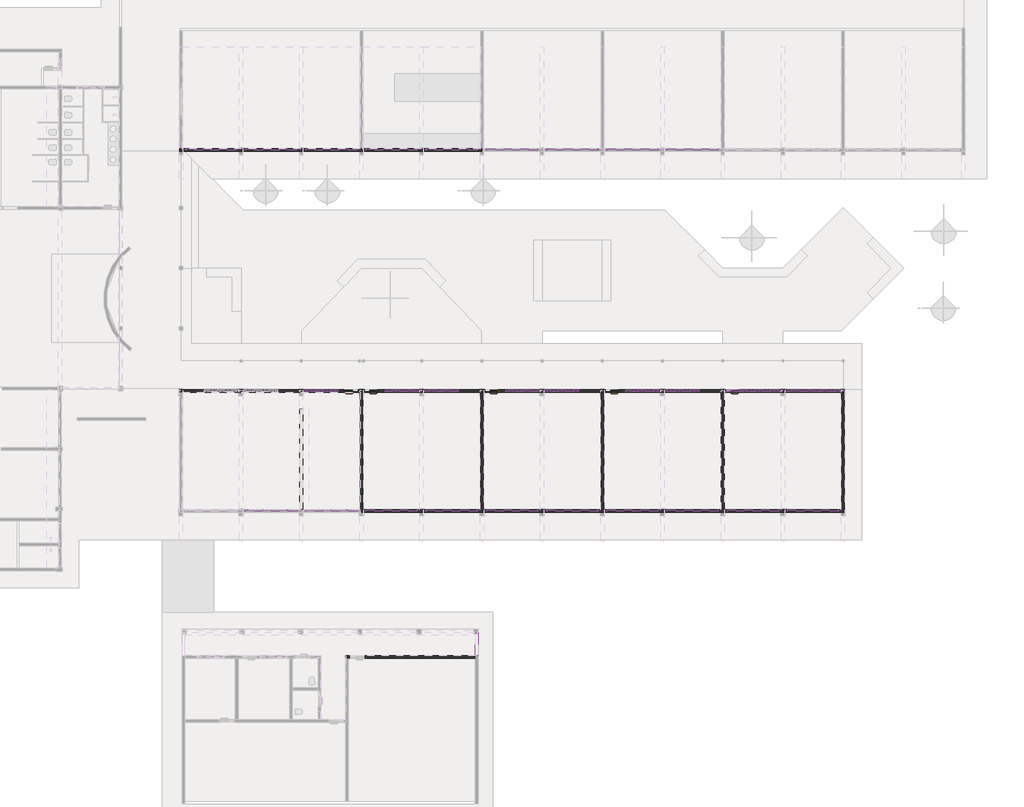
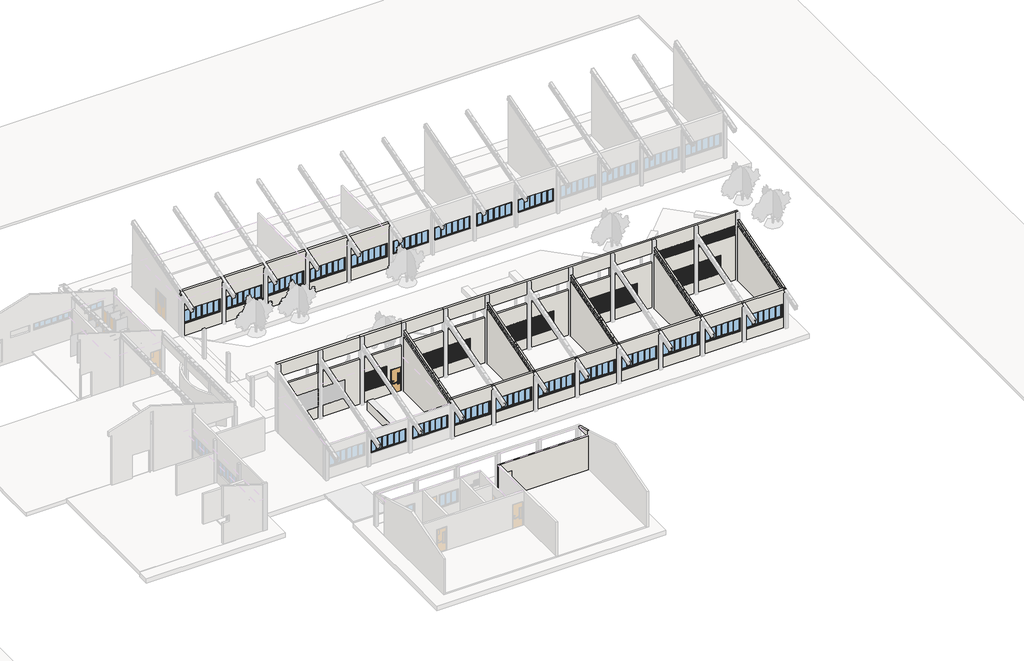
# One storey, part 3 of 12: 30 windows, 11 walls, 5 doors.
"""IFC4 building model written with IfcOpenShell, lengths in millimetres."""

from ifc_helpers import new_model, si_unit, frame, origin, place, context, project, spatial, polyline, outline, extrude, faceted_brep, transform, mapped, element, save
from components import door_2b58ae42, door_7c62873f, window_f572775f, window_a88563cc, window_1a4b773a, window_60306791, window_6c828501, window_02d14e1e, window_300_x_110_bd0b738a

model = new_model("IFC4")

# Units and contexts
model_context = context("Model", 3, world=origin())
ifc_project = project(units=[si_unit("LENGTHUNIT", "METRE", prefix="MILLI")], contexts=[model_context])

# Site, building, storey
site = spatial("IfcSite", under=ifc_project)
building = spatial("IfcBuilding", under=site)
storey = spatial("IfcBuildingStorey", under=building, Name="Nível 1", Elevation=0.0)

# Doors
placement = place(None, origin())
door_shape = door_2b58ae42(model_context)
element("IfcDoor", 1, ObjectType="Porta sala de aula e laboratorio : Porta sala de aula e laboratorio", at=placement, inside=storey, context=model_context, shape_type="MappedRepresentation", body=[
    mapped(door_shape, transform((34866.5302368, 15697.0058221, 300.0), x_axis=(1.0, 0.0, 0.0), y_axis=(0.0, 1.0, 0.0), z_axis=(0.0, 0.0, 1.0))),
])
element("IfcDoor", 2, ObjectType="Porta sala de aula e laboratorio : Porta sala de aula e laboratorio", at=placement, inside=storey, context=model_context, shape_type="MappedRepresentation", body=[
    mapped(door_shape, transform((27866.5302368, 15697.0058221, 300.0), x_axis=(1.0, 0.0, 0.0), y_axis=(0.0, 1.0, 0.0), z_axis=(0.0, 0.0, 1.0))),
])
element("IfcDoor", 3, ObjectType="Porta sala de aula e laboratorio : Porta sala de aula e laboratorio", at=placement, inside=storey, context=model_context, shape_type="MappedRepresentation", body=[
    mapped(door_shape, transform((20866.5302368, 15697.0058221, 300.0), x_axis=(1.0, 0.0, 0.0), y_axis=(0.0, 1.0, 0.0), z_axis=(0.0, 0.0, 1.0))),
])
element("IfcDoor", 4, ObjectType="Porta sala de aula e laboratorio : Porta sala de aula e laboratorio", at=placement, inside=storey, context=model_context, shape_type="MappedRepresentation", body=[
    mapped(door_shape, transform((13856.528714, 15697.0058221, 300.0), x_axis=(1.0, 0.0, 0.0), y_axis=(0.0, 1.0, 0.0), z_axis=(0.0, 0.0, 1.0))),
])
door_2_shape = door_7c62873f(model_context)
element("IfcDoor", 5, ObjectType="Porta sala de aula e laboratorio : Porta sala de aula e laboratorio", at=placement, inside=storey, context=model_context, shape_type="MappedRepresentation", body=[
    mapped(door_2_shape, transform((12711.528714, 15697.0058221, 300.0), x_axis=(-1.0, 0.0, 0.0), y_axis=(0.0, -1.0, 0.0), z_axis=(0.0, 0.0, 1.0))),
])

# Walls
element("IfcWall", 6, ObjectType="15cm - Parede Genérica", at=placement, inside=storey, context=model_context, shape_type="Brep", body=[
    faceted_brep([(20301.5285525, 29781.1862478, 4235.7451204), (20301.5285525, 29781.1862478, 117.8550021), (2726.5285525, 29781.1862478, 117.8550021), (2726.5285525, 29781.1862478, 306.2937063), (2726.5285525, 29781.1862478, 4235.7451204), (2876.5285525, 29781.1862478, 4235.7451204), (20051.5233349, 29781.1862478, 1265.0), (20051.5233349, 29781.1862478, 2435.0), (17051.5233349, 29781.1862478, 2435.0), (17051.5233349, 29781.1862478, 1265.0), (16551.5233349, 29781.1862478, 1265.0), (16551.5233349, 29781.1862478, 2435.0), (13551.5233349, 29781.1862478, 2435.0), (13551.5233349, 29781.1862478, 1265.0), (13051.5233349, 29781.1862478, 1265.0), (13051.5233349, 29781.1862478, 2435.0), (10051.5233349, 29781.1862478, 2435.0), (10051.5233349, 29781.1862478, 1265.0), (9551.5233349, 29781.1862478, 1265.0), (9551.5233349, 29781.1862478, 2435.0), (6551.5233349, 29781.1862478, 2435.0), (6551.5233349, 29781.1862478, 1265.0), (6051.5233349, 29781.1862478, 1265.0), (6051.5233349, 29781.1862478, 2435.0), (3051.5233349, 29781.1862478, 2435.0), (3051.5233349, 29781.1862478, 1265.0), (20301.5285525, 29631.1862478, 117.8550021), (20301.5285525, 29631.1862478, 4190.7451204), (2726.5285525, 29631.1862478, 4190.7451204), (2726.5285525, 29631.1862478, 117.8550021), (20051.5233349, 29631.1862478, 1265.0), (17051.5233349, 29631.1862478, 1265.0), (17051.5233349, 29631.1862478, 2435.0), (20051.5233349, 29631.1862478, 2435.0), (16551.5233349, 29631.1862478, 1265.0), (13551.5233349, 29631.1862478, 1265.0), (13551.5233349, 29631.1862478, 2435.0), (16551.5233349, 29631.1862478, 2435.0), (13051.5233349, 29631.1862478, 1265.0), (10051.5233349, 29631.1862478, 1265.0), (10051.5233349, 29631.1862478, 2435.0), (13051.5233349, 29631.1862478, 2435.0), (9551.5233349, 29631.1862478, 1265.0), (6551.5233349, 29631.1862478, 1265.0), (6551.5233349, 29631.1862478, 2435.0), (9551.5233349, 29631.1862478, 2435.0), (6051.5233349, 29631.1862478, 1265.0), (3051.5233349, 29631.1862478, 1265.0), (3051.5233349, 29631.1862478, 2435.0), (6051.5233349, 29631.1862478, 2435.0)], [[[0, 1, 2, 3, 4, 5], [6, 7, 8, 9], [10, 11, 12, 13], [14, 15, 16, 17], [18, 19, 20, 21], [22, 23, 24, 25]], [[26, 27, 28, 29], [30, 31, 32, 33], [34, 35, 36, 37], [38, 39, 40, 41], [42, 43, 44, 45], [46, 47, 48, 49]], [[2, 1, 26, 29]], [[7, 6, 30, 33]], [[8, 7, 33, 32]], [[9, 8, 32, 31]], [[6, 9, 31, 30]], [[11, 10, 34, 37]], [[12, 11, 37, 36]], [[13, 12, 36, 35]], [[10, 13, 35, 34]], [[15, 14, 38, 41]], [[16, 15, 41, 40]], [[17, 16, 40, 39]], [[14, 17, 39, 38]], [[19, 18, 42, 45]], [[20, 19, 45, 44]], [[21, 20, 44, 43]], [[18, 21, 43, 42]], [[23, 22, 46, 49]], [[24, 23, 49, 48]], [[25, 24, 48, 47]], [[22, 25, 47, 46]], [[4, 3, 2, 29, 28]], [[0, 27, 26, 1]], [[0, 5, 4, 28, 27]]]),
])
element("IfcWall", 7, ObjectType="15cm - Parede Genérica", at=placement, inside=storey, context=model_context, shape_type="Brep", body=[
    faceted_brep([(41376.5302368, 15622.0058221, 6300.0), (2726.528714, 15622.0058221, 6300.0), (2726.528714, 15622.0058221, 5300.0), (2726.528714, 15622.0058221, 300.0), (2876.528714, 15622.0058221, 300.0), (12281.528714, 15622.0058221, 300.0), (12281.528714, 15622.0058221, 2430.0), (13141.528714, 15622.0058221, 2430.0), (13141.528714, 15622.0058221, 300.0), (13226.528714, 15622.0058221, 300.0), (13376.528714, 15622.0058221, 300.0), (13426.528714, 15622.0058221, 300.0), (13426.528714, 15622.0058221, 2430.0), (14286.528714, 15622.0058221, 2430.0), (14286.528714, 15622.0058221, 300.0), (20226.6119019, 15622.0058221, 300.0), (20376.6119019, 15622.0058221, 300.0), (20436.5302368, 15622.0058221, 300.0), (20436.5302368, 15622.0058221, 2430.0), (21296.5302368, 15622.0058221, 2430.0), (21296.5302368, 15622.0058221, 300.0), (27226.5302368, 15622.0058221, 300.0), (27376.5302368, 15622.0058221, 300.0), (27436.5302368, 15622.0058221, 300.0), (27436.5302368, 15622.0058221, 2430.0), (28296.5302368, 15622.0058221, 2430.0), (28296.5302368, 15622.0058221, 300.0), (34226.5302368, 15622.0058221, 300.0), (34376.5302368, 15622.0058221, 300.0), (34436.5302368, 15622.0058221, 300.0), (34436.5302368, 15622.0058221, 2430.0), (35296.5302368, 15622.0058221, 2430.0), (35296.5302368, 15622.0058221, 300.0), (41226.5302368, 15622.0058221, 300.0), (41376.5302368, 15622.0058221, 300.0), (41376.5302368, 15622.0058221, 5300.0), (37926.5302368, 15622.0058221, 1300.0), (37926.5302368, 15622.0058221, 2900.0), (39926.5302368, 15622.0058221, 2900.0), (39926.5302368, 15622.0058221, 1300.0), (37676.5302368, 15622.0058221, 2900.0), (37676.5302368, 15622.0058221, 1300.0), (35676.5302368, 15622.0058221, 1300.0), (35676.5302368, 15622.0058221, 2900.0), (30926.5302368, 15622.0058221, 1300.0), (30926.5302368, 15622.0058221, 2900.0), (32926.5302368, 15622.0058221, 2900.0), (32926.5302368, 15622.0058221, 1300.0), (30676.5302368, 15622.0058221, 2900.0), (30676.5302368, 15622.0058221, 1300.0), (28676.5302368, 15622.0058221, 1300.0), (28676.5302368, 15622.0058221, 2900.0), (23926.5302368, 15622.0058221, 1300.0), (23926.5302368, 15622.0058221, 2900.0), (25926.5302368, 15622.0058221, 2900.0), (25926.5302368, 15622.0058221, 1300.0), (21676.5302368, 15622.0058221, 1300.0), (21676.5302368, 15622.0058221, 2900.0), (23676.5302368, 15622.0058221, 2900.0), (23676.5302368, 15622.0058221, 1300.0), (16926.5302368, 15622.0058221, 1300.0), (16926.5302368, 15622.0058221, 2900.0), (18926.5302368, 15622.0058221, 2900.0), (18926.5302368, 15622.0058221, 1300.0), (14676.5294754, 15622.0058221, 1300.0), (14676.5294754, 15622.0058221, 2900.0), (16676.5294754, 15622.0058221, 2900.0), (16676.5294754, 15622.0058221, 1300.0), (37676.5302368, 15622.0058221, 5100.0), (37676.5302368, 15622.0058221, 4300.0), (34376.5302368, 15622.0058221, 4300.0), (34376.5302368, 15622.0058221, 5100.0), (30676.5302368, 15622.0058221, 5100.0), (30676.5302368, 15622.0058221, 4300.0), (27376.5302368, 15622.0058221, 4300.0), (27376.5302368, 15622.0058221, 5100.0), (34226.5302368, 15622.0058221, 5100.0), (34226.5302368, 15622.0058221, 4300.0), (30926.5302368, 15622.0058221, 4300.0), (30926.5302368, 15622.0058221, 5100.0), (23676.5302368, 15622.0058221, 5100.0), (23676.5302368, 15622.0058221, 4300.0), (20376.5302368, 15622.0058221, 4300.0), (20376.5302368, 15622.0058221, 5100.0), (27226.5302368, 15622.0058221, 5100.0), (27226.5302368, 15622.0058221, 4300.0), (23926.5302368, 15622.0058221, 4300.0), (23926.5302368, 15622.0058221, 5100.0), (16676.5302368, 15622.0058221, 5100.0), (16676.5302368, 15622.0058221, 4300.0), (13376.5302368, 15622.0058221, 4300.0), (13376.5302368, 15622.0058221, 5100.0), (20226.5302368, 15622.0058221, 5100.0), (20226.5302368, 15622.0058221, 4300.0), (16926.5302368, 15622.0058221, 4300.0), (16926.5302368, 15622.0058221, 5100.0), (11931.5285525, 15622.0058221, 1300.0), (9931.5285525, 15622.0058221, 1300.0), (9931.5285525, 15622.0058221, 2900.0), (11931.5285525, 15622.0058221, 2900.0), (8426.5285525, 15622.0058221, 1300.0), (6426.5285525, 15622.0058221, 1300.0), (6426.5285525, 15622.0058221, 2900.0), (8426.5285525, 15622.0058221, 2900.0), (6176.5285525, 15622.0058221, 1300.0), (4176.5285525, 15622.0058221, 1300.0), (4176.5285525, 15622.0058221, 2900.0), (6176.5285525, 15622.0058221, 2900.0), (9726.5285525, 15622.0058221, 4300.0), (6426.5285525, 15622.0058221, 4300.0), (6426.5285525, 15622.0058221, 5100.0), (9726.5285525, 15622.0058221, 5100.0), (13226.528714, 15622.0058221, 4300.0), (9926.528714, 15622.0058221, 4300.0), (9926.528714, 15622.0058221, 5100.0), (13226.528714, 15622.0058221, 5100.0), (6176.5285525, 15622.0058221, 5100.0), (6176.5285525, 15622.0058221, 4300.0), (2876.5285525, 15622.0058221, 4300.0), (2876.5285525, 15622.0058221, 5100.0), (37926.5302368, 15622.0058221, 5100.0), (41226.5302368, 15622.0058221, 5100.0), (41226.5302368, 15622.0058221, 4300.0), (37926.5302368, 15622.0058221, 4300.0), (2726.528714, 15772.0058221, 6300.0), (41376.5302368, 15772.0058221, 6300.0), (41376.5302368, 15772.0058221, 300.0), (35296.5302368, 15772.0058221, 300.0), (35296.5302368, 15772.0058221, 2430.0), (34436.5302368, 15772.0058221, 2430.0), (34436.5302368, 15772.0058221, 300.0), (28296.5302368, 15772.0058221, 300.0), (28296.5302368, 15772.0058221, 2430.0), (27436.5302368, 15772.0058221, 2430.0), (27436.5302368, 15772.0058221, 300.0), (21296.5302368, 15772.0058221, 300.0), (21296.5302368, 15772.0058221, 2430.0), (20436.5302368, 15772.0058221, 2430.0), (20436.5302368, 15772.0058221, 300.0), (14286.528714, 15772.0058221, 300.0), (14286.528714, 15772.0058221, 2430.0), (13426.528714, 15772.0058221, 2430.0), (13426.528714, 15772.0058221, 300.0), (13141.528714, 15772.0058221, 300.0), (13141.528714, 15772.0058221, 2430.0), (12281.528714, 15772.0058221, 2430.0), (12281.528714, 15772.0058221, 300.0), (2726.528714, 15772.0058221, 300.0), (37926.5302368, 15772.0058221, 2900.0), (37926.5302368, 15772.0058221, 1300.0), (39926.5302368, 15772.0058221, 1300.0), (39926.5302368, 15772.0058221, 2900.0), (37676.5302368, 15772.0058221, 1300.0), (37676.5302368, 15772.0058221, 2900.0), (35676.5302368, 15772.0058221, 2900.0), (35676.5302368, 15772.0058221, 1300.0), (30926.5302368, 15772.0058221, 2900.0), (30926.5302368, 15772.0058221, 1300.0), (32926.5302368, 15772.0058221, 1300.0), (32926.5302368, 15772.0058221, 2900.0), (30676.5302368, 15772.0058221, 1300.0), (30676.5302368, 15772.0058221, 2900.0), (28676.5302368, 15772.0058221, 2900.0), (28676.5302368, 15772.0058221, 1300.0), (23926.5302368, 15772.0058221, 2900.0), (23926.5302368, 15772.0058221, 1300.0), (25926.5302368, 15772.0058221, 1300.0), (25926.5302368, 15772.0058221, 2900.0), (21676.5302368, 15772.0058221, 2900.0), (21676.5302368, 15772.0058221, 1300.0), (23676.5302368, 15772.0058221, 1300.0), (23676.5302368, 15772.0058221, 2900.0), (16926.5302368, 15772.0058221, 2900.0), (16926.5302368, 15772.0058221, 1300.0), (18926.5302368, 15772.0058221, 1300.0), (18926.5302368, 15772.0058221, 2900.0), (14676.5294754, 15772.0058221, 2900.0), (14676.5294754, 15772.0058221, 1300.0), (16676.5294754, 15772.0058221, 1300.0), (16676.5294754, 15772.0058221, 2900.0), (37676.5302368, 15772.0058221, 4300.0), (37676.5302368, 15772.0058221, 5100.0), (34376.5302368, 15772.0058221, 5100.0), (34376.5302368, 15772.0058221, 4300.0), (30676.5302368, 15772.0058221, 4300.0), (30676.5302368, 15772.0058221, 5100.0), (27376.5302368, 15772.0058221, 5100.0), (27376.5302368, 15772.0058221, 4300.0), (34226.5302368, 15772.0058221, 4300.0), (34226.5302368, 15772.0058221, 5100.0), (30926.5302368, 15772.0058221, 5100.0), (30926.5302368, 15772.0058221, 4300.0), (23676.5302368, 15772.0058221, 4300.0), (23676.5302368, 15772.0058221, 5100.0), (20376.5302368, 15772.0058221, 5100.0), (20376.5302368, 15772.0058221, 4300.0), (27226.5302368, 15772.0058221, 4300.0), (27226.5302368, 15772.0058221, 5100.0), (23926.5302368, 15772.0058221, 5100.0), (23926.5302368, 15772.0058221, 4300.0), (16676.5302368, 15772.0058221, 4300.0), (16676.5302368, 15772.0058221, 5100.0), (13376.5302368, 15772.0058221, 5100.0), (13376.5302368, 15772.0058221, 4300.0), (20226.5302368, 15772.0058221, 4300.0), (20226.5302368, 15772.0058221, 5100.0), (16926.5302368, 15772.0058221, 5100.0), (16926.5302368, 15772.0058221, 4300.0), (9931.5285525, 15772.0058221, 1300.0), (11931.5285525, 15772.0058221, 1300.0), (11931.5285525, 15772.0058221, 2900.0), (9931.5285525, 15772.0058221, 2900.0), (6426.5285525, 15772.0058221, 1300.0), (8426.5285525, 15772.0058221, 1300.0), (8426.5285525, 15772.0058221, 2900.0), (6426.5285525, 15772.0058221, 2900.0), (4176.5285525, 15772.0058221, 1300.0), (6176.5285525, 15772.0058221, 1300.0), (6176.5285525, 15772.0058221, 2900.0), (4176.5285525, 15772.0058221, 2900.0), (6426.5285525, 15772.0058221, 4300.0), (9726.5285525, 15772.0058221, 4300.0), (9726.5285525, 15772.0058221, 5100.0), (6426.5285525, 15772.0058221, 5100.0), (13226.528714, 15772.0058221, 4300.0), (13226.528714, 15772.0058221, 5100.0), (9926.528714, 15772.0058221, 5100.0), (9926.528714, 15772.0058221, 4300.0), (6176.5285525, 15772.0058221, 4300.0), (6176.5285525, 15772.0058221, 5100.0), (2876.5285525, 15772.0058221, 5100.0), (2876.5285525, 15772.0058221, 4300.0), (41226.5302368, 15772.0058221, 5100.0), (37926.5302368, 15772.0058221, 5100.0), (37926.5302368, 15772.0058221, 4300.0), (41226.5302368, 15772.0058221, 4300.0)], [[[0, 1, 2, 3, 4, 5, 6, 7, 8, 9, 10, 11, 12, 13, 14, 15, 16, 17, 18, 19, 20, 21, 22, 23, 24, 25, 26, 27, 28, 29, 30, 31, 32, 33, 34, 35], [36, 37, 38, 39], [40, 41, 42, 43], [44, 45, 46, 47], [48, 49, 50, 51], [52, 53, 54, 55], [56, 57, 58, 59], [60, 61, 62, 63], [64, 65, 66, 67], [68, 69, 70, 71], [72, 73, 74, 75], [76, 77, 78, 79], [80, 81, 82, 83], [84, 85, 86, 87], [88, 89, 90, 91], [92, 93, 94, 95], [96, 97, 98, 99], [100, 101, 102, 103], [104, 105, 106, 107], [108, 109, 110, 111], [112, 113, 114, 115], [116, 117, 118, 119], [120, 121, 122, 123]], [[124, 125, 126, 127, 128, 129, 130, 131, 132, 133, 134, 135, 136, 137, 138, 139, 140, 141, 142, 143, 144, 145, 146, 147], [148, 149, 150, 151], [152, 153, 154, 155], [156, 157, 158, 159], [160, 161, 162, 163], [164, 165, 166, 167], [168, 169, 170, 171], [172, 173, 174, 175], [176, 177, 178, 179], [180, 181, 182, 183], [184, 185, 186, 187], [188, 189, 190, 191], [192, 193, 194, 195], [196, 197, 198, 199], [200, 201, 202, 203], [204, 205, 206, 207], [208, 209, 210, 211], [212, 213, 214, 215], [216, 217, 218, 219], [220, 221, 222, 223], [224, 225, 226, 227], [228, 229, 230, 231], [232, 233, 234, 235]], [[130, 29, 28, 27, 26, 131]], [[134, 23, 22, 21, 20, 135]], [[138, 17, 16, 15, 14, 139]], [[142, 11, 10, 9, 8, 143]], [[34, 33, 32, 127, 126]], [[5, 4, 3, 147, 146]], [[1, 0, 125, 124]], [[31, 128, 127, 32]], [[128, 31, 30, 129]], [[129, 30, 29, 130]], [[25, 132, 131, 26]], [[132, 25, 24, 133]], [[133, 24, 23, 134]], [[19, 136, 135, 20]], [[136, 19, 18, 137]], [[137, 18, 17, 138]], [[13, 140, 139, 14]], [[140, 13, 12, 141]], [[141, 12, 11, 142]], [[37, 36, 149, 148]], [[38, 37, 148, 151]], [[39, 38, 151, 150]], [[36, 39, 150, 149]], [[153, 152, 41, 40]], [[154, 153, 40, 43]], [[155, 154, 43, 42]], [[152, 155, 42, 41]], [[45, 44, 157, 156]], [[46, 45, 156, 159]], [[47, 46, 159, 158]], [[44, 47, 158, 157]], [[161, 160, 49, 48]], [[162, 161, 48, 51]], [[163, 162, 51, 50]], [[160, 163, 50, 49]], [[53, 52, 165, 164]], [[54, 53, 164, 167]], [[55, 54, 167, 166]], [[52, 55, 166, 165]], [[57, 56, 169, 168]], [[58, 57, 168, 171]], [[59, 58, 171, 170]], [[56, 59, 170, 169]], [[61, 60, 173, 172]], [[62, 61, 172, 175]], [[63, 62, 175, 174]], [[60, 63, 174, 173]], [[65, 64, 177, 176]], [[66, 65, 176, 179]], [[67, 66, 179, 178]], [[64, 67, 178, 177]], [[181, 180, 69, 68]], [[182, 181, 68, 71]], [[183, 182, 71, 70]], [[180, 183, 70, 69]], [[185, 184, 73, 72]], [[186, 185, 72, 75]], [[187, 186, 75, 74]], [[184, 187, 74, 73]], [[189, 188, 77, 76]], [[190, 189, 76, 79]], [[191, 190, 79, 78]], [[188, 191, 78, 77]], [[193, 192, 81, 80]], [[194, 193, 80, 83]], [[195, 194, 83, 82]], [[192, 195, 82, 81]], [[197, 196, 85, 84]], [[198, 197, 84, 87]], [[199, 198, 87, 86]], [[196, 199, 86, 85]], [[201, 200, 89, 88]], [[202, 201, 88, 91]], [[203, 202, 91, 90]], [[200, 203, 90, 89]], [[205, 204, 93, 92]], [[206, 205, 92, 95]], [[207, 206, 95, 94]], [[204, 207, 94, 93]], [[97, 96, 209, 208]], [[96, 99, 210, 209]], [[99, 98, 211, 210]], [[98, 97, 208, 211]], [[101, 100, 213, 212]], [[100, 103, 214, 213]], [[103, 102, 215, 214]], [[102, 101, 212, 215]], [[105, 104, 217, 216]], [[104, 107, 218, 217]], [[107, 106, 219, 218]], [[106, 105, 216, 219]], [[221, 220, 109, 108]], [[220, 223, 110, 109]], [[223, 222, 111, 110]], [[222, 221, 108, 111]], [[224, 227, 113, 112]], [[227, 226, 114, 113]], [[226, 225, 115, 114]], [[225, 224, 112, 115]], [[228, 117, 116, 229]], [[229, 116, 119, 230]], [[117, 228, 231, 118]], [[145, 6, 5, 146]], [[6, 145, 144, 7]], [[7, 144, 143, 8]], [[118, 231, 230, 119]], [[3, 2, 1, 124, 147]], [[120, 233, 232, 121]], [[233, 120, 123, 234]], [[234, 123, 122, 235]], [[121, 232, 235, 122]], [[0, 35, 34, 126, 125]]]),
])
element("IfcWall", 8, ObjectType="15cm - Parede Genérica", at=placement, inside=storey, context=model_context, shape_type="Brep", body=[
    faceted_brep([(41376.5302368, 8781.1862478, 300.0), (41226.5302368, 8781.1862478, 300.0), (34376.5302368, 8781.1862478, 300.0), (34226.5302368, 8781.1862478, 300.0), (27376.5302368, 8781.1862478, 300.0), (27226.5302368, 8781.1862478, 300.0), (20376.6119019, 8781.1862478, 300.0), (20226.6119019, 8781.1862478, 300.0), (13376.528714, 8781.1862478, 300.0), (13301.528714, 8781.1862478, 300.0), (13301.528714, 8781.1862478, 3250.0), (13226.528714, 8781.1862478, 3250.0), (13226.528714, 8781.1862478, 3721.7632138), (13376.528714, 8781.1862478, 3721.7632138), (20226.6119019, 8781.1862478, 3721.7632138), (20376.6119019, 8781.1862478, 3721.7632138), (27226.5302368, 8781.1862478, 3721.7632138), (27376.5302368, 8781.1862478, 3721.7632138), (34226.5302368, 8781.1862478, 3721.7632138), (34376.5302368, 8781.1862478, 3721.7632138), (41226.5302368, 8781.1862478, 3721.7632138), (41376.5302368, 8781.1862478, 3721.7632138), (41051.5227001, 8781.1862478, 1265.0), (41051.5227001, 8781.1862478, 2435.0), (38051.5227001, 8781.1862478, 2435.0), (38051.5227001, 8781.1862478, 1265.0), (37551.5227001, 8781.1862478, 1265.0), (37551.5227001, 8781.1862478, 2435.0), (34551.5227001, 8781.1862478, 2435.0), (34551.5227001, 8781.1862478, 1265.0), (34051.5227001, 8781.1862478, 1265.0), (34051.5227001, 8781.1862478, 2435.0), (31051.5227001, 8781.1862478, 2435.0), (31051.5227001, 8781.1862478, 1265.0), (30551.5227001, 8781.1862478, 1265.0), (30551.5227001, 8781.1862478, 2435.0), (27551.5227001, 8781.1862478, 2435.0), (27551.5227001, 8781.1862478, 1265.0), (27051.5227001, 8781.1862478, 1265.0), (27051.5227001, 8781.1862478, 2435.0), (24051.5227001, 8781.1862478, 2435.0), (24051.5227001, 8781.1862478, 1265.0), (23551.5227001, 8781.1862478, 1265.0), (23551.5227001, 8781.1862478, 2435.0), (20551.5227001, 8781.1862478, 2435.0), (20551.5227001, 8781.1862478, 1265.0), (20051.5227001, 8781.1862478, 1265.0), (20051.5227001, 8781.1862478, 2435.0), (17051.5227001, 8781.1862478, 2435.0), (17051.5227001, 8781.1862478, 1265.0), (16551.5227001, 8781.1862478, 1265.0), (16551.5227001, 8781.1862478, 2435.0), (13551.5227001, 8781.1862478, 2435.0), (13551.5227001, 8781.1862478, 1265.0), (41376.5302368, 8631.1862478, 300.0), (41376.5302368, 8631.1862478, 3676.7632138), (13226.528714, 8631.1862478, 3676.7632138), (13226.528714, 8631.1862478, 3250.0), (13301.528714, 8631.1862478, 3250.0), (13301.528714, 8631.1862478, 300.0), (41051.5227001, 8631.1862478, 1265.0), (38051.5227001, 8631.1862478, 1265.0), (38051.5227001, 8631.1862478, 2435.0), (41051.5227001, 8631.1862478, 2435.0), (37551.5227001, 8631.1862478, 1265.0), (34551.5227001, 8631.1862478, 1265.0), (34551.5227001, 8631.1862478, 2435.0), (37551.5227001, 8631.1862478, 2435.0), (34051.5227001, 8631.1862478, 1265.0), (31051.5227001, 8631.1862478, 1265.0), (31051.5227001, 8631.1862478, 2435.0), (34051.5227001, 8631.1862478, 2435.0), (30551.5227001, 8631.1862478, 1265.0), (27551.5227001, 8631.1862478, 1265.0), (27551.5227001, 8631.1862478, 2435.0), (30551.5227001, 8631.1862478, 2435.0), (27051.5227001, 8631.1862478, 1265.0), (24051.5227001, 8631.1862478, 1265.0), (24051.5227001, 8631.1862478, 2435.0), (27051.5227001, 8631.1862478, 2435.0), (23551.5227001, 8631.1862478, 1265.0), (20551.5227001, 8631.1862478, 1265.0), (20551.5227001, 8631.1862478, 2435.0), (23551.5227001, 8631.1862478, 2435.0), (20051.5227001, 8631.1862478, 1265.0), (17051.5227001, 8631.1862478, 1265.0), (17051.5227001, 8631.1862478, 2435.0), (20051.5227001, 8631.1862478, 2435.0), (16551.5227001, 8631.1862478, 1265.0), (13551.5227001, 8631.1862478, 1265.0), (13551.5227001, 8631.1862478, 2435.0), (16551.5227001, 8631.1862478, 2435.0)], [[[0, 1, 2, 3, 4, 5, 6, 7, 8, 9, 10, 11, 12, 13, 14, 15, 16, 17, 18, 19, 20, 21], [22, 23, 24, 25], [26, 27, 28, 29], [30, 31, 32, 33], [34, 35, 36, 37], [38, 39, 40, 41], [42, 43, 44, 45], [46, 47, 48, 49], [50, 51, 52, 53]], [[54, 55, 56, 57, 58, 59], [60, 61, 62, 63], [64, 65, 66, 67], [68, 69, 70, 71], [72, 73, 74, 75], [76, 77, 78, 79], [80, 81, 82, 83], [84, 85, 86, 87], [88, 89, 90, 91]], [[9, 8, 7, 6, 5, 4, 3, 2, 1, 0, 54, 59]], [[10, 9, 59, 58]], [[57, 11, 10, 58]], [[12, 11, 57, 56]], [[23, 22, 60, 63]], [[24, 23, 63, 62]], [[25, 24, 62, 61]], [[22, 25, 61, 60]], [[27, 26, 64, 67]], [[28, 27, 67, 66]], [[29, 28, 66, 65]], [[26, 29, 65, 64]], [[31, 30, 68, 71]], [[32, 31, 71, 70]], [[33, 32, 70, 69]], [[30, 33, 69, 68]], [[35, 34, 72, 75]], [[36, 35, 75, 74]], [[37, 36, 74, 73]], [[34, 37, 73, 72]], [[39, 38, 76, 79]], [[40, 39, 79, 78]], [[41, 40, 78, 77]], [[38, 41, 77, 76]], [[43, 42, 80, 83]], [[44, 43, 83, 82]], [[45, 44, 82, 81]], [[42, 45, 81, 80]], [[47, 46, 84, 87]], [[48, 47, 87, 86]], [[49, 48, 86, 85]], [[46, 49, 85, 84]], [[51, 50, 88, 91]], [[52, 51, 91, 90]], [[53, 52, 90, 89]], [[50, 53, 89, 88]], [[0, 21, 55, 54]], [[21, 20, 19, 18, 17, 16, 15, 14, 13, 12, 56, 55]]]),
])
element("IfcWall", 9, ObjectType="15cm - Parede Genérica", at=placement, inside=storey, context=model_context, shape_type="Brep", body=[
    faceted_brep([(19926.5285525, 151.3249037, 3300.0), (12526.5285525, 151.3249037, 3300.0), (12376.5285525, 151.3249037, 3300.0), (12376.5285525, 151.3249037, 300.0), (12526.5285525, 151.3249037, 300.0), (12626.5285525, 151.3249037, 300.0), (12626.5285525, 151.3249037, 2430.0), (13486.5285525, 151.3249037, 2430.0), (13486.5285525, 151.3249037, 300.0), (19926.5285525, 151.3249037, 300.0), (12376.5285525, 301.3249037, 3300.0), (19926.5285525, 301.3249037, 3300.0), (19926.5285525, 301.3249037, 300.0), (13486.5285525, 301.3249037, 300.0), (13486.5285525, 301.3249037, 2430.0), (12626.5285525, 301.3249037, 2430.0), (12626.5285525, 301.3249037, 300.0), (12376.5285525, 301.3249037, 300.0)], [[[0, 1, 2, 3, 4, 5, 6, 7, 8, 9]], [[10, 11, 12, 13, 14, 15, 16, 17]], [[3, 17, 16, 5, 4]], [[12, 9, 8, 13]], [[2, 1, 0, 11, 10]], [[3, 2, 10, 17]], [[7, 14, 13, 8]], [[14, 7, 6, 15]], [[15, 6, 5, 16]], [[9, 12, 11, 0]]]),
])
element("IfcWall", 10, ObjectType="15cm - Parede Genérica", at=placement, inside=storey, context=model_context, shape_type="SweptSolid", body=[
    extrude(outline(polyline([(9876.4731397, 14621.9993381), (9876.4731397, 8781.1862478), (9726.4731397, 8781.1862478), (9726.4731397, 14621.9993381), (9876.4731397, 14621.9993381)])), frame((0.0, 0.0, 300.0), z_axis=(0.0, 0.0, 1.0), x_axis=(1.0, 0.0, 0.0)), (0.0, 0.0, 1.0), 900.0),
])
element("IfcWall", 11, ObjectType="15cm - Parede Genérica", at=placement, inside=storey, context=model_context, shape_type="Brep", body=[
    faceted_brep([(41226.5302368, 15622.0058221, 300.0), (41226.5302368, 8781.1862478, 300.0), (41226.5302368, 8781.1862478, 3721.7632138), (41226.5302368, 15566.1284427, 5757.2458723), (41226.5302368, 15566.1284427, 5300.0), (41226.5302368, 15622.0058221, 5300.0), (41226.5302368, 15622.0058221, 5100.0), (41226.5302368, 15622.0058221, 4300.0), (41376.5302368, 15622.0058221, 300.0), (41376.5302368, 15622.0058221, 5300.0), (41376.5302368, 15566.1284427, 5300.0), (41376.5302368, 15566.1284427, 5757.2458723), (41376.5302368, 8781.1862478, 3721.7632138), (41376.5302368, 8781.1862478, 300.0)], [[[0, 1, 2, 3, 4, 5, 6, 7]], [[8, 9, 10, 11, 12, 13]], [[1, 0, 8, 13]], [[0, 7, 6, 5, 9, 8]], [[2, 1, 13, 12]], [[5, 4, 10, 9]], [[10, 4, 3, 11]], [[3, 2, 12, 11]]]),
])
element("IfcWall", 12, ObjectType="15cm - Parede Genérica", at=placement, inside=storey, context=model_context, shape_type="Brep", body=[
    faceted_brep([(34226.5302368, 15622.0058221, 300.0), (34226.5302368, 8781.1862478, 300.0), (34226.5302368, 8781.1862478, 3721.7632138), (34226.5302368, 15566.1284427, 5757.2458723), (34226.5302368, 15566.1284427, 5300.0), (34226.5302368, 15622.0058221, 5300.0), (34226.5302368, 15622.0058221, 5100.0), (34226.5302368, 15622.0058221, 4300.0), (34376.5302368, 15622.0058221, 300.0), (34376.5302368, 15622.0058221, 4300.0), (34376.5302368, 15622.0058221, 5100.0), (34376.5302368, 15622.0058221, 5300.0), (34376.5302368, 15566.1284427, 5300.0), (34376.5302368, 15566.1284427, 5757.2458723), (34376.5302368, 8781.1862478, 3721.7632138), (34376.5302368, 8781.1862478, 300.0)], [[[0, 1, 2, 3, 4, 5, 6, 7]], [[8, 9, 10, 11, 12, 13, 14, 15]], [[1, 0, 8, 15]], [[0, 7, 6, 5, 11, 10, 9, 8]], [[2, 1, 15, 14]], [[5, 4, 12, 11]], [[12, 4, 3, 13]], [[3, 2, 14, 13]]]),
])
element("IfcWall", 13, ObjectType="15cm - Parede Genérica", at=placement, inside=storey, context=model_context, shape_type="Brep", body=[
    faceted_brep([(27226.5302368, 15622.0058221, 300.0), (27226.5302368, 8781.1862478, 300.0), (27226.5302368, 8781.1862478, 3721.7632138), (27226.5302368, 15566.1284427, 5757.2458723), (27226.5302368, 15566.1284427, 5300.0), (27226.5302368, 15622.0058221, 5300.0), (27226.5302368, 15622.0058221, 5100.0), (27226.5302368, 15622.0058221, 4300.0), (27376.5302368, 15622.0058221, 300.0), (27376.5302368, 15622.0058221, 4300.0), (27376.5302368, 15622.0058221, 5100.0), (27376.5302368, 15622.0058221, 5300.0), (27376.5302368, 15566.1284427, 5300.0), (27376.5302368, 15566.1284427, 5757.2458723), (27376.5302368, 8781.1862478, 3721.7632138), (27376.5302368, 8781.1862478, 300.0)], [[[0, 1, 2, 3, 4, 5, 6, 7]], [[8, 9, 10, 11, 12, 13, 14, 15]], [[1, 0, 8, 15]], [[0, 7, 6, 5, 11, 10, 9, 8]], [[2, 1, 15, 14]], [[5, 4, 12, 11]], [[12, 4, 3, 13]], [[3, 2, 14, 13]]]),
])
element("IfcWall", 14, ObjectType="15cm - Parede Genérica", at=placement, inside=storey, context=model_context, shape_type="Brep", body=[
    faceted_brep([(20226.6119019, 15622.0058221, 300.0), (20226.6119019, 8781.1862478, 300.0), (20226.6119019, 8781.1862478, 3721.7632138), (20226.6119019, 15566.1284427, 5757.2458723), (20226.6119019, 15566.1284427, 5300.0), (20226.6119019, 15622.0058221, 5300.0), (20226.6119019, 15622.0058221, 5100.0), (20226.6119019, 15622.0058221, 4300.0), (20376.6119019, 15622.0058221, 300.0), (20376.6119019, 15622.0058221, 4300.0), (20376.6119019, 15622.0058221, 5100.0), (20376.6119019, 15622.0058221, 5300.0), (20376.6119019, 15566.1284427, 5300.0), (20376.6119019, 15566.1284427, 5757.2458723), (20376.6119019, 8781.1862478, 3721.7632138), (20376.6119019, 8781.1862478, 300.0)], [[[0, 1, 2, 3, 4, 5, 6, 7]], [[8, 9, 10, 11, 12, 13, 14, 15]], [[1, 0, 8, 15]], [[0, 7, 6, 5, 11, 10, 9, 8]], [[2, 1, 15, 14]], [[5, 4, 12, 11]], [[12, 4, 3, 13]], [[3, 2, 14, 13]]]),
])
element("IfcWall", 15, ObjectType="15cm - Parede Genérica", at=placement, inside=storey, context=model_context, shape_type="Brep", body=[
    faceted_brep([(13226.528714, 15622.0058221, 300.0), (13226.528714, 8781.1862478, 300.0), (13226.528714, 8781.1862478, 3250.0), (13226.528714, 8781.1862478, 3721.7632138), (13226.528714, 15566.1284427, 5757.2458723), (13226.528714, 15566.1284427, 5300.0), (13226.528714, 15622.0058221, 5300.0), (13226.528714, 15622.0058221, 5100.0), (13226.528714, 15622.0058221, 4300.0), (13376.528714, 15622.0058221, 300.0), (13376.528714, 15622.0058221, 4300.0), (13376.528714, 15622.0058221, 5100.0), (13376.528714, 15622.0058221, 5300.0), (13376.528714, 15566.1284427, 5300.0), (13376.528714, 15566.1284427, 5757.2458723), (13376.528714, 8781.1862478, 3721.7632138), (13376.528714, 8781.1862478, 300.0), (13301.528714, 8781.1862478, 300.0)], [[[0, 1, 2, 3, 4, 5, 6, 7, 8]], [[9, 10, 11, 12, 13, 14, 15, 16]], [[1, 0, 9, 16, 17]], [[1, 17, 16, 15, 3, 2]], [[0, 8, 7, 6, 12, 11, 10, 9]], [[6, 5, 13, 12]], [[13, 5, 4, 14]], [[4, 3, 15, 14]]]),
])
element("IfcWall", 16, ObjectType="15cm - Parede Genérica", at=placement, inside=storey, context=model_context, shape_type="SweptSolid", body=[
    extrude(outline(polyline([(1625.3088684, 3100.0), (301.3249037, 3100.0), (301.3249037, 3662.9553906), (1625.3088684, 3265.7602012), (1625.3088684, 3100.0)])), frame((19926.5285525, 0.0, 0.0), z_axis=(1.0, 0.0, 0.0), x_axis=(0.0, 1.0, 0.0)), (0.0, 0.0, 1.0), 150.0),
])

# Windows
window_shape = window_f572775f(model_context)
window_2_shape = window_a88563cc(model_context)
window_3_shape = window_1a4b773a(model_context)
element("IfcWindow", 17, ObjectType="Concrete_Cobog_Hollow_block_14694 : Cobogó 2,00 x 1,60 m", at=placement, inside=storey, context=model_context, shape_type="MappedRepresentation", body=[
    mapped(window_shape, transform((38926.5302368, 15697.0058221, 500.0), x_axis=(1.0, 0.0, 0.0), y_axis=(0.0, 1.0, 0.0), z_axis=(0.0, 0.0, 1.0))),
    mapped(window_2_shape, transform((38926.5302368, 15697.0058221, 500.0), x_axis=(1.0, 0.0, 0.0), y_axis=(0.0, 1.0, 0.0), z_axis=(0.0, 0.0, 1.0))),
    mapped(window_3_shape, transform((38926.5302368, 15697.0058221, 500.0), x_axis=(1.0, 0.0, 0.0), y_axis=(0.0, 1.0, 0.0), z_axis=(0.0, 0.0, 1.0))),
])
element("IfcWindow", 18, ObjectType="Concrete_Cobog_Hollow_block_14694 : Cobogó 2,00 x 1,60 m", at=placement, inside=storey, context=model_context, shape_type="MappedRepresentation", body=[
    mapped(window_shape, transform((36676.5302368, 15697.0058221, 500.0), x_axis=(-1.0, 0.0, 0.0), y_axis=(0.0, -1.0, 0.0), z_axis=(0.0, 0.0, 1.0))),
    mapped(window_2_shape, transform((36676.5302368, 15697.0058221, 500.0), x_axis=(-1.0, 0.0, 0.0), y_axis=(0.0, -1.0, 0.0), z_axis=(0.0, 0.0, 1.0))),
    mapped(window_3_shape, transform((36676.5302368, 15697.0058221, 500.0), x_axis=(-1.0, 0.0, 0.0), y_axis=(0.0, -1.0, 0.0), z_axis=(0.0, 0.0, 1.0))),
])
element("IfcWindow", 19, ObjectType="Concrete_Cobog_Hollow_block_14694 : Cobogó 2,00 x 1,60 m", at=placement, inside=storey, context=model_context, shape_type="MappedRepresentation", body=[
    mapped(window_shape, transform((31926.5302368, 15697.0058221, 500.0), x_axis=(1.0, 0.0, 0.0), y_axis=(0.0, 1.0, 0.0), z_axis=(0.0, 0.0, 1.0))),
    mapped(window_2_shape, transform((31926.5302368, 15697.0058221, 500.0), x_axis=(1.0, 0.0, 0.0), y_axis=(0.0, 1.0, 0.0), z_axis=(0.0, 0.0, 1.0))),
    mapped(window_3_shape, transform((31926.5302368, 15697.0058221, 500.0), x_axis=(1.0, 0.0, 0.0), y_axis=(0.0, 1.0, 0.0), z_axis=(0.0, 0.0, 1.0))),
])
element("IfcWindow", 20, ObjectType="Concrete_Cobog_Hollow_block_14694 : Cobogó 2,00 x 1,60 m", at=placement, inside=storey, context=model_context, shape_type="MappedRepresentation", body=[
    mapped(window_shape, transform((29676.5302368, 15697.0058221, 500.0), x_axis=(-1.0, 0.0, 0.0), y_axis=(0.0, -1.0, 0.0), z_axis=(0.0, 0.0, 1.0))),
    mapped(window_2_shape, transform((29676.5302368, 15697.0058221, 500.0), x_axis=(-1.0, 0.0, 0.0), y_axis=(0.0, -1.0, 0.0), z_axis=(0.0, 0.0, 1.0))),
    mapped(window_3_shape, transform((29676.5302368, 15697.0058221, 500.0), x_axis=(-1.0, 0.0, 0.0), y_axis=(0.0, -1.0, 0.0), z_axis=(0.0, 0.0, 1.0))),
])
element("IfcWindow", 21, ObjectType="Concrete_Cobog_Hollow_block_14694 : Cobogó 2,00 x 1,60 m", at=placement, inside=storey, context=model_context, shape_type="MappedRepresentation", body=[
    mapped(window_shape, transform((24926.5302368, 15697.0058221, 500.0), x_axis=(1.0, 0.0, 0.0), y_axis=(0.0, 1.0, 0.0), z_axis=(0.0, 0.0, 1.0))),
    mapped(window_2_shape, transform((24926.5302368, 15697.0058221, 500.0), x_axis=(1.0, 0.0, 0.0), y_axis=(0.0, 1.0, 0.0), z_axis=(0.0, 0.0, 1.0))),
    mapped(window_3_shape, transform((24926.5302368, 15697.0058221, 500.0), x_axis=(1.0, 0.0, 0.0), y_axis=(0.0, 1.0, 0.0), z_axis=(0.0, 0.0, 1.0))),
])
element("IfcWindow", 22, ObjectType="Concrete_Cobog_Hollow_block_14694 : Cobogó 2,00 x 1,60 m", at=placement, inside=storey, context=model_context, shape_type="MappedRepresentation", body=[
    mapped(window_shape, transform((22676.5302368, 15697.0058221, 500.0), x_axis=(1.0, 0.0, 0.0), y_axis=(0.0, 1.0, 0.0), z_axis=(0.0, 0.0, 1.0))),
    mapped(window_2_shape, transform((22676.5302368, 15697.0058221, 500.0), x_axis=(1.0, 0.0, 0.0), y_axis=(0.0, 1.0, 0.0), z_axis=(0.0, 0.0, 1.0))),
    mapped(window_3_shape, transform((22676.5302368, 15697.0058221, 500.0), x_axis=(1.0, 0.0, 0.0), y_axis=(0.0, 1.0, 0.0), z_axis=(0.0, 0.0, 1.0))),
])
element("IfcWindow", 23, ObjectType="Concrete_Cobog_Hollow_block_14694 : Cobogó 2,00 x 1,60 m", at=placement, inside=storey, context=model_context, shape_type="MappedRepresentation", body=[
    mapped(window_shape, transform((17926.5302368, 15697.0058221, 500.0), x_axis=(1.0, 0.0, 0.0), y_axis=(0.0, 1.0, 0.0), z_axis=(0.0, 0.0, 1.0))),
    mapped(window_2_shape, transform((17926.5302368, 15697.0058221, 500.0), x_axis=(1.0, 0.0, 0.0), y_axis=(0.0, 1.0, 0.0), z_axis=(0.0, 0.0, 1.0))),
    mapped(window_3_shape, transform((17926.5302368, 15697.0058221, 500.0), x_axis=(1.0, 0.0, 0.0), y_axis=(0.0, 1.0, 0.0), z_axis=(0.0, 0.0, 1.0))),
])
element("IfcWindow", 24, ObjectType="Concrete_Cobog_Hollow_block_14694 : Cobogó 2,00 x 1,60 m", at=placement, inside=storey, context=model_context, shape_type="MappedRepresentation", body=[
    mapped(window_shape, transform((15676.5294754, 15697.0058221, 500.0), x_axis=(1.0, 0.0, 0.0), y_axis=(0.0, 1.0, 0.0), z_axis=(0.0, 0.0, 1.0))),
    mapped(window_2_shape, transform((15676.5294754, 15697.0058221, 500.0), x_axis=(1.0, 0.0, 0.0), y_axis=(0.0, 1.0, 0.0), z_axis=(0.0, 0.0, 1.0))),
    mapped(window_3_shape, transform((15676.5294754, 15697.0058221, 500.0), x_axis=(1.0, 0.0, 0.0), y_axis=(0.0, 1.0, 0.0), z_axis=(0.0, 0.0, 1.0))),
])
element("IfcWindow", 25, ObjectType="Concrete_Cobog_Hollow_block_14694 : Cobogó 2,00 x 1,60 m", at=placement, inside=storey, context=model_context, shape_type="MappedRepresentation", body=[
    mapped(window_shape, transform((10931.5285525, 15697.0058221, 500.0), x_axis=(1.0, 0.0, 0.0), y_axis=(0.0, 1.0, 0.0), z_axis=(0.0, 0.0, 1.0))),
    mapped(window_2_shape, transform((10931.5285525, 15697.0058221, 500.0), x_axis=(1.0, 0.0, 0.0), y_axis=(0.0, 1.0, 0.0), z_axis=(0.0, 0.0, 1.0))),
    mapped(window_3_shape, transform((10931.5285525, 15697.0058221, 500.0), x_axis=(1.0, 0.0, 0.0), y_axis=(0.0, 1.0, 0.0), z_axis=(0.0, 0.0, 1.0))),
])
window_4_shape = window_60306791(model_context)
window_5_shape = window_6c828501(model_context)
window_6_shape = window_02d14e1e(model_context)
element("IfcWindow", 26, ObjectType="Concrete_Cobog_Hollow_block_14694 : Cobogó 3,25 x 0,80 m", at=placement, inside=storey, context=model_context, shape_type="MappedRepresentation", body=[
    mapped(window_4_shape, transform((39576.5302368, 15697.0058221, 3500.0), x_axis=(-1.0, 0.0, 0.0), y_axis=(0.0, -1.0, 0.0), z_axis=(0.0, 0.0, 1.0))),
    mapped(window_5_shape, transform((39576.5302368, 15697.0058221, 3500.0), x_axis=(-1.0, 0.0, 0.0), y_axis=(0.0, -1.0, 0.0), z_axis=(0.0, 0.0, 1.0))),
    mapped(window_6_shape, transform((39576.5302368, 15697.0058221, 3500.0), x_axis=(-1.0, 0.0, 0.0), y_axis=(0.0, -1.0, 0.0), z_axis=(0.0, 0.0, 1.0))),
])
element("IfcWindow", 27, ObjectType="Concrete_Cobog_Hollow_block_14694 : Cobogó 3,25 x 0,80 m", at=placement, inside=storey, context=model_context, shape_type="MappedRepresentation", body=[
    mapped(window_4_shape, transform((36026.5302368, 15697.0058221, 3500.0), x_axis=(-1.0, 0.0, 0.0), y_axis=(0.0, -1.0, 0.0), z_axis=(0.0, 0.0, 1.0))),
    mapped(window_5_shape, transform((36026.5302368, 15697.0058221, 3500.0), x_axis=(-1.0, 0.0, 0.0), y_axis=(0.0, -1.0, 0.0), z_axis=(0.0, 0.0, 1.0))),
    mapped(window_6_shape, transform((36026.5302368, 15697.0058221, 3500.0), x_axis=(-1.0, 0.0, 0.0), y_axis=(0.0, -1.0, 0.0), z_axis=(0.0, 0.0, 1.0))),
])
window_300_x_110_shape = window_300_x_110_bd0b738a(model_context)
element("IfcWindow", 28, ObjectType="Janela 6 folhas 300x110 : 300 x 110", at=placement, inside=storey, context=model_context, shape_type="MappedRepresentation", body=[
    mapped(window_300_x_110_shape, transform((32680.9268858, 29705.3104083, 300.0), x_axis=(-1.0, 0.0, 0.0), y_axis=(0.0, -1.0, 0.0), z_axis=(0.0, 0.0, 1.0))),
])
element("IfcWindow", 29, ObjectType="Janela 6 folhas 300x110 : 300 x 110", at=placement, inside=storey, context=model_context, shape_type="MappedRepresentation", body=[
    mapped(window_300_x_110_shape, transform((29180.9268858, 29705.3104083, 300.0), x_axis=(-1.0, 0.0, 0.0), y_axis=(0.0, -1.0, 0.0), z_axis=(0.0, 0.0, 1.0))),
])
element("IfcWindow", 30, ObjectType="Janela 6 folhas 300x110 : 300 x 110", at=placement, inside=storey, context=model_context, shape_type="MappedRepresentation", body=[
    mapped(window_300_x_110_shape, transform((25680.9268858, 29705.3104083, 300.0), x_axis=(-1.0, 0.0, 0.0), y_axis=(0.0, -1.0, 0.0), z_axis=(0.0, 0.0, 1.0))),
])
element("IfcWindow", 31, ObjectType="Janela 6 folhas 300x110 : 300 x 110", at=placement, inside=storey, context=model_context, shape_type="MappedRepresentation", body=[
    mapped(window_300_x_110_shape, transform((22180.9268858, 29705.3104083, 300.0), x_axis=(-1.0, 0.0, 0.0), y_axis=(0.0, -1.0, 0.0), z_axis=(0.0, 0.0, 1.0))),
])
element("IfcWindow", 32, ObjectType="Janela 6 folhas 300x110 : 300 x 110", at=placement, inside=storey, context=model_context, shape_type="MappedRepresentation", body=[
    mapped(window_300_x_110_shape, transform((18680.9268858, 29705.3104083, 300.0), x_axis=(-1.0, 0.0, 0.0), y_axis=(0.0, -1.0, 0.0), z_axis=(0.0, 0.0, 1.0))),
])
element("IfcWindow", 33, ObjectType="Janela 6 folhas 300x110 : 300 x 110", at=placement, inside=storey, context=model_context, shape_type="MappedRepresentation", body=[
    mapped(window_300_x_110_shape, transform((15180.9268858, 29705.3104083, 300.0), x_axis=(-1.0, 0.0, 0.0), y_axis=(0.0, -1.0, 0.0), z_axis=(0.0, 0.0, 1.0))),
])
element("IfcWindow", 34, ObjectType="Janela 6 folhas 300x110 : 300 x 110", at=placement, inside=storey, context=model_context, shape_type="MappedRepresentation", body=[
    mapped(window_300_x_110_shape, transform((11680.9268858, 29705.3104083, 300.0), x_axis=(-1.0, 0.0, 0.0), y_axis=(0.0, -1.0, 0.0), z_axis=(0.0, 0.0, 1.0))),
])
element("IfcWindow", 35, ObjectType="Janela 6 folhas 300x110 : 300 x 110", at=placement, inside=storey, context=model_context, shape_type="MappedRepresentation", body=[
    mapped(window_300_x_110_shape, transform((8180.9268858, 29705.3104083, 300.0), x_axis=(-1.0, 0.0, 0.0), y_axis=(0.0, -1.0, 0.0), z_axis=(0.0, 0.0, 1.0))),
])
element("IfcWindow", 36, ObjectType="Janela 6 folhas 300x110 : 300 x 110", at=placement, inside=storey, context=model_context, shape_type="MappedRepresentation", body=[
    mapped(window_300_x_110_shape, transform((4680.9268858, 29705.3104083, 300.0), x_axis=(-1.0, 0.0, 0.0), y_axis=(0.0, -1.0, 0.0), z_axis=(0.0, 0.0, 1.0))),
])
element("IfcWindow", 37, ObjectType="Janela 6 folhas 300x110 : 300 x 110", at=placement, inside=storey, context=model_context, shape_type="MappedRepresentation", body=[
    mapped(window_300_x_110_shape, transform((39680.9262511, 8705.3104083, 300.0), x_axis=(-1.0, 0.0, 0.0), y_axis=(0.0, -1.0, 0.0), z_axis=(0.0, 0.0, 1.0))),
])
element("IfcWindow", 38, ObjectType="Janela 6 folhas 300x110 : 300 x 110", at=placement, inside=storey, context=model_context, shape_type="MappedRepresentation", body=[
    mapped(window_300_x_110_shape, transform((36180.9262511, 8705.3104083, 300.0), x_axis=(-1.0, 0.0, 0.0), y_axis=(0.0, -1.0, 0.0), z_axis=(0.0, 0.0, 1.0))),
])
element("IfcWindow", 39, ObjectType="Janela 6 folhas 300x110 : 300 x 110", at=placement, inside=storey, context=model_context, shape_type="MappedRepresentation", body=[
    mapped(window_300_x_110_shape, transform((32680.9262511, 8705.3104083, 300.0), x_axis=(-1.0, 0.0, 0.0), y_axis=(0.0, -1.0, 0.0), z_axis=(0.0, 0.0, 1.0))),
])
element("IfcWindow", 40, ObjectType="Janela 6 folhas 300x110 : 300 x 110", at=placement, inside=storey, context=model_context, shape_type="MappedRepresentation", body=[
    mapped(window_300_x_110_shape, transform((29180.9262511, 8705.3104083, 300.0), x_axis=(-1.0, 0.0, 0.0), y_axis=(0.0, -1.0, 0.0), z_axis=(0.0, 0.0, 1.0))),
])
element("IfcWindow", 41, ObjectType="Janela 6 folhas 300x110 : 300 x 110", at=placement, inside=storey, context=model_context, shape_type="MappedRepresentation", body=[
    mapped(window_300_x_110_shape, transform((25680.9262511, 8705.3104083, 300.0), x_axis=(-1.0, 0.0, 0.0), y_axis=(0.0, -1.0, 0.0), z_axis=(0.0, 0.0, 1.0))),
])
element("IfcWindow", 42, ObjectType="Janela 6 folhas 300x110 : 300 x 110", at=placement, inside=storey, context=model_context, shape_type="MappedRepresentation", body=[
    mapped(window_300_x_110_shape, transform((22180.9262511, 8705.3104083, 300.0), x_axis=(-1.0, 0.0, 0.0), y_axis=(0.0, -1.0, 0.0), z_axis=(0.0, 0.0, 1.0))),
])
element("IfcWindow", 43, ObjectType="Janela 6 folhas 300x110 : 300 x 110", at=placement, inside=storey, context=model_context, shape_type="MappedRepresentation", body=[
    mapped(window_300_x_110_shape, transform((18680.9262511, 8705.3104083, 300.0), x_axis=(-1.0, 0.0, 0.0), y_axis=(0.0, -1.0, 0.0), z_axis=(0.0, 0.0, 1.0))),
])
element("IfcWindow", 44, ObjectType="Janela 6 folhas 300x110 : 300 x 110", at=placement, inside=storey, context=model_context, shape_type="MappedRepresentation", body=[
    mapped(window_300_x_110_shape, transform((15180.9262511, 8705.3104083, 300.0), x_axis=(-1.0, 0.0, 0.0), y_axis=(0.0, -1.0, 0.0), z_axis=(0.0, 0.0, 1.0))),
])
element("IfcWindow", 45, ObjectType="Janela 6 folhas 300x110 : 300 x 110", at=placement, inside=storey, context=model_context, shape_type="MappedRepresentation", body=[
    mapped(window_300_x_110_shape, transform((11680.9262511, 8705.3104083, 300.0), x_axis=(-1.0, 0.0, 0.0), y_axis=(0.0, -1.0, 0.0), z_axis=(0.0, 0.0, 1.0))),
])
element("IfcWindow", 46, ObjectType="Janela 6 folhas 300x110 : 300 x 110", at=placement, inside=storey, context=model_context, shape_type="MappedRepresentation", body=[
    mapped(window_300_x_110_shape, transform((8180.9262511, 8705.3104083, 300.0), x_axis=(-1.0, 0.0, 0.0), y_axis=(0.0, -1.0, 0.0), z_axis=(0.0, 0.0, 1.0))),
])

save(model, "model.ifc")
